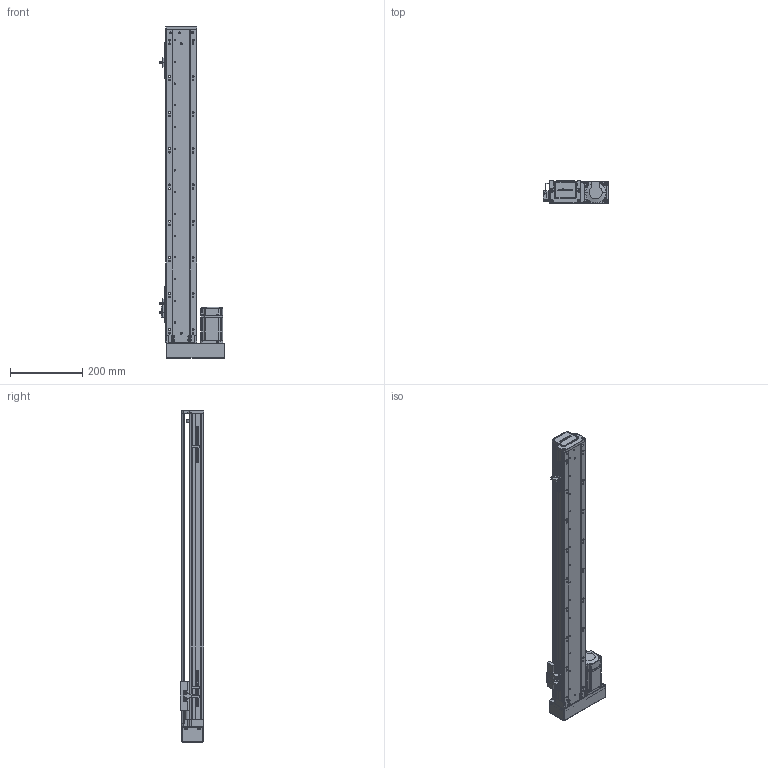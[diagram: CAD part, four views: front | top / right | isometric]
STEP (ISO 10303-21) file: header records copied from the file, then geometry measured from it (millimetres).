
FILE_DESCRIPTION (( 'STEP AP203' ), '1' );
FILE_NAME ('RY80-L1620-300-LK.SLDASM_700.step', '2021-02-20T07:17:08', ( '盈信电脑' ), ( '东莞市道滘镇水果街19号' ), 'SwSTEP 2.0', 'SolidWorks 2012', '' );
FILE_SCHEMA (( 'CONFIG_CONTROL_DESIGN' ));
Products named in the file (15): RY80-L1620-300-LK.SLDASM_700; 滅袉蝶18-24; 覜茼ん672; RY80俋离覜茼え; RY80酘殏俋欶; T倰羞; RY80酘莞萇儂假蚾啣; RY80转接电机端支撑座; 侂狟200W萇儂; 1; RY80-300蛌諉倰第奻裔啣-LK_700; RY80綴裔啣; 滅袉蝶18-10; RY80-300蛌諉倰第菁釱-LK_700; RY80臏賑輸
Assembly tree (17 placements, depth 3):
  RY80-L1620-300-LK.SLDASM_700
    RY80-300蛌諉倰第菁釱-LK_700
    RY80臏賑輸
    RY80-300蛌諉倰第奻裔啣-LK_700
    RY80綴裔啣
    滅袉蝶18-10
    RY80转接电机端支撑座
    侂狟200W萇儂
      1
    RY80酘莞萇儂假蚾啣
    RY80酘殏俋欶
    覜茼ん672  x3
    T倰羞  x2
    RY80俋离覜茼え
    滅袉蝶18-24
Bounding box: 181.7 x 65 x 917 mm (x, y, z)
Volume: 1752965.8 mm3; surface area: 699317.3 mm2
Topology: 16 solids, 16 shells, 2268 faces, 6279 edges, 4069 vertices
Faces by surface type: plane 1195, cylinder 870, cone 141, bspline 62
Entity records: 73231 total; most frequent: CARTESIAN_POINT 19333, ORIENTED_EDGE 11246, DIRECTION 10348, EDGE_CURVE 5623, VERTEX_POINT 3685, AXIS2_PLACEMENT_3D 3484, LINE 3380, VECTOR 3380
